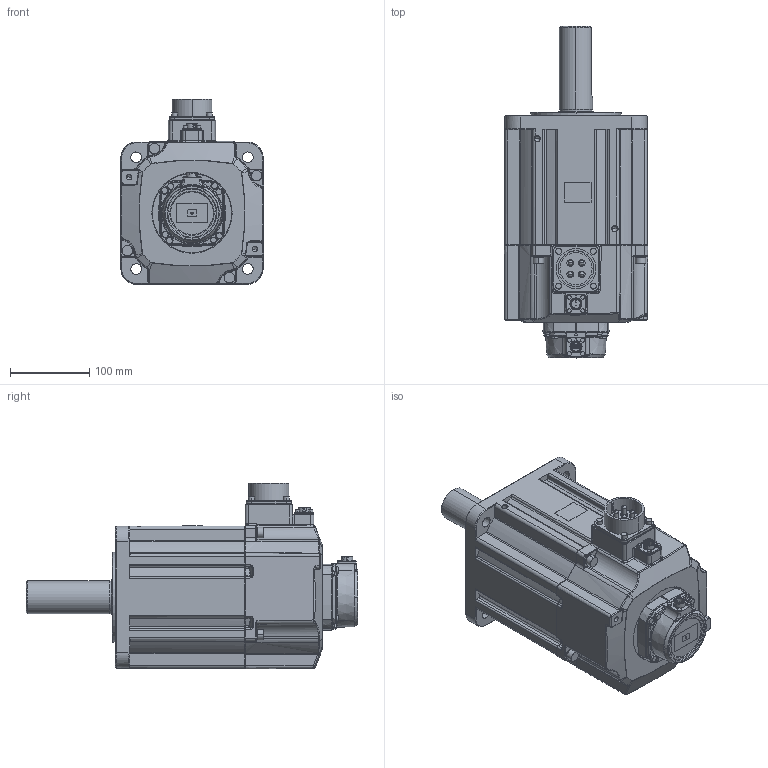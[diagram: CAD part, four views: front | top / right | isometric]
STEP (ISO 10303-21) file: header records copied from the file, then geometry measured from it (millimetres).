
FILE_DESCRIPTION((''),'2;1');
FILE_NAME('ECM-B3M-FX1875S31_SW0002','2021-06-09T01:49:30',('MIO.CHEN'),(''),'CREO PARAMETRIC BY PTC INC, 2018400','CREO PARAMETRIC BY PTC INC, 2018400','');
FILE_SCHEMA(('CONFIG_CONTROL_DESIGN'));
Products named in the file (1): ECM-B3M-FX1875S31_SW0002
Bounding box: 181.48 x 420.1 x 235.04 mm (x, y, z)
Volume: 7705729.3 mm3; surface area: 309219.7 mm2
Topology: 1 solids, 1 shells, 1768 faces, 4535 edges, 2750 vertices
Faces by surface type: cylinder 531, plane 460, bspline 322, cone 253, torus 150, sphere 52
Entity records: 74345 total; most frequent: CARTESIAN_POINT 34705, ORIENTED_EDGE 8870, DIRECTION 7542, EDGE_CURVE 4435, AXIS2_PLACEMENT_3D 3020, VERTEX_POINT 2750, EDGE_LOOP 1857, FACE_OUTER_BOUND 1768
